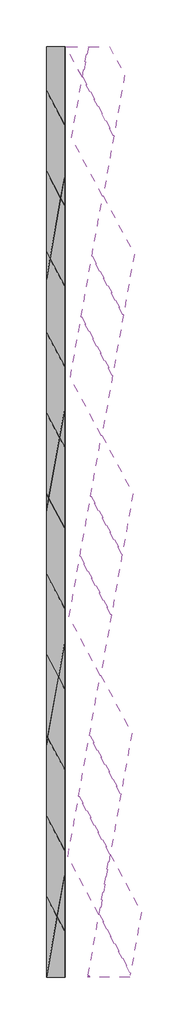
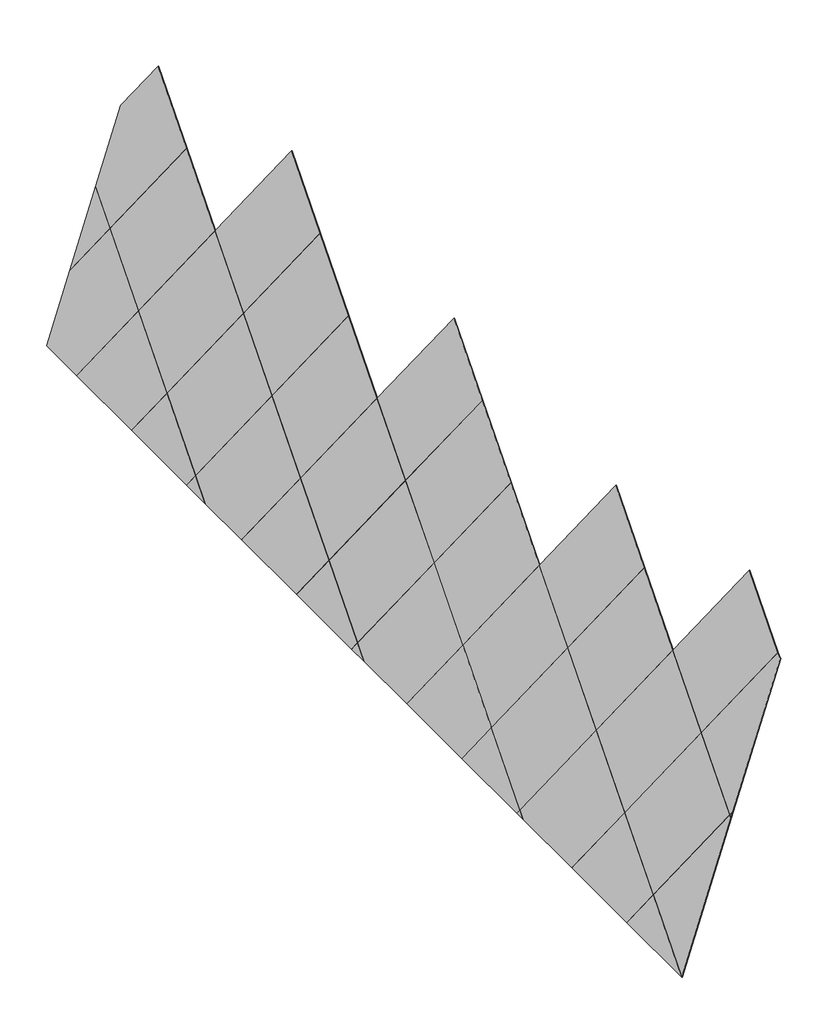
# One storey, incomplete: 38 plates.
"""IFC4 building model written with IfcOpenShell, lengths in millimetres."""

from ifc_helpers import new_model, si_unit, origin, place, context, project, spatial, transform, mapped, element, save
from components import plate_969d1667, plate_5158de34, plate_a97b291f, plate_aaef0fc8, plate_8d21edd0, plate_37a8cfe6, plate_2800b3d3, plate_b21344c3, plate_3c9e1d5a, plate_f3c4d13c, plate_d7e51805, plate_6007e982, plate_9a3058fc, plate_2b75f933, plate_3b3882b3, plate_4ca05de4, plate_2f3c461f, plate_bcce99e1, plate_46e54e51, plate_83047ba3, plate_29658407

model = new_model("IFC4")

# Units and contexts
model_context = context("Model", 3, world=origin())
ifc_project = project(units=[si_unit("LENGTHUNIT", "METRE", prefix="MILLI")], contexts=[model_context])

# Site, building, storey
site = spatial("IfcSite", under=ifc_project)
building = spatial("IfcBuilding", under=site)
storey = spatial("IfcBuildingStorey", under=building, Name="樓層 1", Elevation=0.0)

# Plates
placement = place(None, origin())
plate_shape = plate_969d1667(model_context)
element("IfcPlate", 1, ObjectType="系統嵌板 : 玻璃 1.0cm", at=placement, inside=storey, context=model_context, shape_type="MappedRepresentation", body=[
    mapped(plate_shape, transform((-11647.1109221, 5766.0427082, 2658.0821609), x_axis=(0.15450849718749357, 0.8660254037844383, 0.47552825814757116), y_axis=(0.9510565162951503, 0.0, -0.30901699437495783), z_axis=(-0.267616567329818, 0.5000000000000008, -0.8236391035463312))),
])
element("IfcPlate", 2, ObjectType="系統嵌板 : 玻璃 1.0cm", at=placement, inside=storey, context=model_context, shape_type="MappedRepresentation", body=[
    mapped(plate_shape, transform((-11415.3481763, 7065.0808139, 3371.3745481), x_axis=(0.15450849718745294, 0.8660254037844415, 0.4755282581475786), y_axis=(0.9510565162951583, 0.0, -0.3090169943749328), z_axis=(-0.2676165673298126, 0.4999999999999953, -0.8236391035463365))),
])
element("IfcPlate", 3, ObjectType="系統嵌板 : 玻璃 1.0cm", at=placement, inside=storey, context=model_context, shape_type="MappedRepresentation", body=[
    mapped(plate_shape, transform((-11183.5854305, 8364.1189196, 4084.6669353), x_axis=(0.15450849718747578, 0.86602540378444, 0.47552825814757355), y_axis=(0.951056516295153, 0.0, -0.3090169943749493), z_axis=(-0.2676165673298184, 0.49999999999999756, -0.8236391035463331))),
])
element("IfcPlate", 4, ObjectType="系統嵌板 : 玻璃 1.0cm", at=placement, inside=storey, context=model_context, shape_type="MappedRepresentation", body=[
    mapped(plate_shape, transform((-11673.3577411, 618.9283912, 2577.3027581), x_axis=(0.1545084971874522, 0.8660254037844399, 0.47552825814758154), y_axis=(0.951056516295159, 0.0, -0.3090169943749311), z_axis=(-0.267616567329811, 0.49999999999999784, -0.8236391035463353))),
])
element("IfcPlate", 5, ObjectType="系統嵌板 : 玻璃 1.0cm", at=placement, inside=storey, context=model_context, shape_type="MappedRepresentation", body=[
    mapped(plate_shape, transform((-11441.5949953, 1917.9664969, 3290.5951453), x_axis=(0.1545084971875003, 0.8660254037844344, 0.475528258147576), y_axis=(0.9510565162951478, 0.0, -0.30901699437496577), z_axis=(-0.26761656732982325, 0.5000000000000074, -0.8236391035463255))),
])
element("IfcPlate", 6, ObjectType="系統嵌板 : 玻璃 1.0cm", at=placement, inside=storey, context=model_context, shape_type="MappedRepresentation", body=[
    mapped(plate_shape, transform((-11209.8322495, 3217.0046025, 4003.8875325), x_axis=(0.15450849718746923, 0.8660254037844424, 0.47552825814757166), y_axis=(0.9510565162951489, 0.0, -0.3090169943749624), z_axis=(-0.2676165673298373, 0.4999999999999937, -0.8236391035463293))),
])
element("IfcPlate", 7, ObjectType="系統嵌板 : 玻璃 1.0cm", at=placement, inside=storey, context=model_context, shape_type="MappedRepresentation", body=[
    mapped(plate_shape, transform((-10978.0695038, 4516.0427082, 4717.1799197), x_axis=(0.15450849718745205, 0.8660254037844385, 0.4755282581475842), y_axis=(0.951056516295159, 0.0, -0.3090169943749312), z_axis=(-0.2676165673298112, 0.5000000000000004, -0.8236391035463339))),
])
element("IfcPlate", 8, ObjectType="系統嵌板 : 玻璃 1.0cm", at=placement, inside=storey, context=model_context, shape_type="MappedRepresentation", body=[
    mapped(plate_shape, transform((-10746.306758, 5815.0808139, 5430.472307), x_axis=(0.15450849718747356, 0.8660254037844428, 0.4755282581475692), y_axis=(0.9510565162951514, 0.0, -0.30901699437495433), z_axis=(-0.26761656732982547, 0.4999999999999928, -0.8236391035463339))),
])
element("IfcPlate", 9, ObjectType="系統嵌板 : 玻璃 1.0cm", at=placement, inside=storey, context=model_context, shape_type="MappedRepresentation", body=[
    mapped(plate_shape, transform((-11699.6045601, -4528.1859258, 2496.5233553), x_axis=(0.1545084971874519, 0.8660254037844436, 0.475528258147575), y_axis=(0.9510565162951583, 0.0, -0.30901699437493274), z_axis=(-0.2676165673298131, 0.49999999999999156, -0.8236391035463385))),
])
element("IfcPlate", 10, ObjectType="系統嵌板 : 玻璃 1.0cm", at=placement, inside=storey, context=model_context, shape_type="MappedRepresentation", body=[
    mapped(plate_shape, transform((-11467.8418143, -3229.1478202, 3209.8157425), x_axis=(0.15450849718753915, 0.866025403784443, 0.47552825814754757), y_axis=(0.9510565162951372, 0.0, -0.30901699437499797), z_axis=(-0.267616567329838, 0.49999999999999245, -0.82363910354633))),
])
element("IfcPlate", 11, ObjectType="系統嵌板 : 玻璃 1.0cm", at=placement, inside=storey, context=model_context, shape_type="MappedRepresentation", body=[
    mapped(plate_shape, transform((-11236.0790686, -1930.1097145, 3923.1081297), x_axis=(0.1545084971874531, 0.8660254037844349, 0.47552825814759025), y_axis=(0.951056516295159, 0.0, -0.30901699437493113), z_axis=(-0.26761656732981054, 0.5000000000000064, -0.8236391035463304))),
])
element("IfcPlate", 12, ObjectType="系統嵌板 : 玻璃 1.0cm", at=placement, inside=storey, context=model_context, shape_type="MappedRepresentation", body=[
    mapped(plate_shape, transform((-11004.3163228, -631.0716088, 4636.4005169), x_axis=(0.15450849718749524, 0.8660254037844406, 0.4755282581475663), y_axis=(0.9510565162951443, 0.0, -0.30901699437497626), z_axis=(-0.2676165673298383, 0.49999999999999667, -0.8236391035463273))),
])
element("IfcPlate", 13, ObjectType="系統嵌板 : 玻璃 1.0cm", at=placement, inside=storey, context=model_context, shape_type="MappedRepresentation", body=[
    mapped(plate_shape, transform((-10772.553577, 667.9664969, 5349.6929042), x_axis=(0.15450849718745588, 0.8660254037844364, 0.4755282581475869), y_axis=(0.9510565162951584, 0.0, -0.3090169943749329), z_axis=(-0.26761656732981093, 0.5000000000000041, -0.8236391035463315))),
])
element("IfcPlate", 14, ObjectType="系統嵌板 : 玻璃 1.0cm", at=placement, inside=storey, context=model_context, shape_type="MappedRepresentation", body=[
    mapped(plate_shape, transform((-11494.0886334, -8376.2621372, 3129.0363397), x_axis=(0.1545084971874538, 0.8660254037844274, 0.475528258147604), y_axis=(0.9510565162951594, 0.0, -0.3090169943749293), z_axis=(-0.26761656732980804, 0.5000000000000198, -0.8236391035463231))),
])
element("IfcPlate", 15, ObjectType="系統嵌板 : 玻璃 1.0cm", at=placement, inside=storey, context=model_context, shape_type="MappedRepresentation", body=[
    mapped(plate_shape, transform((-11262.3258876, -7077.2240315, 3842.3287269), x_axis=(0.15450849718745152, 0.8660254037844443, 0.4755282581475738), y_axis=(0.9510565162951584, 0.0, -0.30901699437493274), z_axis=(-0.2676165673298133, 0.4999999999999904, -0.8236391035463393))),
])
element("IfcPlate", 16, ObjectType="系統嵌板 : 玻璃 1.0cm", at=placement, inside=storey, context=model_context, shape_type="MappedRepresentation", body=[
    mapped(plate_shape, transform((-11030.5631418, -5778.1859258, 4555.6211141), x_axis=(0.15450849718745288, 0.8660254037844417, 0.47552825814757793), y_axis=(0.9510565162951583, 0.0, -0.3090169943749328), z_axis=(-0.26761656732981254, 0.49999999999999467, -0.8236391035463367))),
])
element("IfcPlate", 17, ObjectType="系統嵌板 : 玻璃 1.0cm", at=placement, inside=storey, context=model_context, shape_type="MappedRepresentation", body=[
    mapped(plate_shape, transform((-10798.800396, -4479.1478202, 5268.9135014), x_axis=(0.1545084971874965, 0.8660254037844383, 0.4755282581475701), y_axis=(0.9510565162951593, 0.0, -0.30901699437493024), z_axis=(-0.26761656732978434, 0.5000000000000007, -0.8236391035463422))),
])
element("IfcPlate", 18, ObjectType="系統嵌板 : 玻璃 1.0cm", at=placement, inside=storey, context=model_context, shape_type="MappedRepresentation", body=[
    mapped(plate_shape, transform((-10593.2844693, -8327.2240315, 5901.4264858), x_axis=(0.15450849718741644, 0.8660254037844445, 0.4755282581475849), y_axis=(0.951056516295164, 0.0, -0.30901699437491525), z_axis=(-0.26761656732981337, 0.49999999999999, -0.8236391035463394))),
])
plate_2_shape = plate_5158de34(model_context)
element("IfcPlate", 19, ObjectType="系統嵌板 : 玻璃 1.0cm", at=placement, inside=storey, context=model_context, shape_type="MappedRepresentation", body=[
    mapped(plate_2_shape, transform((-12471.4039418, 6145.8521798, 121.1691042), x_axis=(0.1545084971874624, 0.8660254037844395, 0.475528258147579), y_axis=(0.9510565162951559, 0.0, -0.30901699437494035), z_axis=(-0.2676165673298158, 0.49999999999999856, -0.8236391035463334))),
])
plate_3_shape = plate_a97b291f(model_context)
element("IfcPlate", 20, ObjectType="系統嵌板 : 玻璃 1.0cm", at=placement, inside=storey, context=model_context, shape_type="MappedRepresentation", body=[
    mapped(plate_3_shape, transform((-12316.1523404, 7016.0427082, 598.984402), x_axis=(0.1545084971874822, 0.8660254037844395, 0.4755282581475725), y_axis=(0.9510565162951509, 0.0, -0.3090169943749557), z_axis=(-0.26761656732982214, 0.4999999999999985, -0.8236391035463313))),
])
plate_4_shape = plate_aaef0fc8(model_context)
element("IfcPlate", 21, ObjectType="系統嵌板 : 玻璃 1.0cm", at=placement, inside=storey, context=model_context, shape_type="MappedRepresentation", body=[
    mapped(plate_4_shape, transform((-12084.3895946, 8315.0808139, 1312.2767892), x_axis=(0.1545084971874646, 0.8660254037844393, 0.4755282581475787), y_axis=(0.951056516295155, 0.0, -0.30901699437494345), z_axis=(-0.26761656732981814, 0.49999999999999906, -0.8236391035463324))),
])
plate_5_shape = plate_8d21edd0(model_context)
element("IfcPlate", 22, ObjectType="系統嵌板 : 玻璃 1.0cm", at=placement, inside=storey, context=model_context, shape_type="MappedRepresentation", body=[
    mapped(plate_5_shape, transform((-11852.6268488, 9614.1189196, 2025.5691764), x_axis=(0.15450849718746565, 0.8660254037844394, 0.47552825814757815), y_axis=(0.9510565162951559, 0.0, -0.3090169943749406), z_axis=(-0.26761656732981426, 0.49999999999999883, -0.8236391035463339))),
])
plate_6_shape = plate_37a8cfe6(model_context)
element("IfcPlate", 23, ObjectType="系統嵌板 : 玻璃 1.0cm", at=placement, inside=storey, context=model_context, shape_type="MappedRepresentation", body=[
    mapped(plate_6_shape, transform((-11677.7322109, 10594.4093383, 2563.8395243), x_axis=(0.15450849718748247, 0.8660254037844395, 0.4755282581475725), y_axis=(0.951056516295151, 0.0, -0.3090169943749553), z_axis=(-0.2676165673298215, 0.4999999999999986, -0.8236391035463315))),
])
plate_7_shape = plate_2800b3d3(model_context)
element("IfcPlate", 24, ObjectType="系統嵌板 : 玻璃 1.0cm", at=placement, inside=storey, context=model_context, shape_type="MappedRepresentation", body=[
    mapped(plate_7_shape, transform((-12484.5273513, 1072.2950213, 80.7794028), x_axis=(0.15450849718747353, 0.866025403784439, 0.4755282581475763), y_axis=(0.9510565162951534, 0.0, -0.3090169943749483), z_axis=(-0.26761656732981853, 0.49999999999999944, -0.8236391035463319))),
])
plate_8_shape = plate_b21344c3(model_context)
element("IfcPlate", 25, ObjectType="系統嵌板 : 玻璃 1.0cm", at=placement, inside=storey, context=model_context, shape_type="MappedRepresentation", body=[
    mapped(plate_8_shape, transform((-12342.3991594, 1868.9283912, 518.2049992), x_axis=(0.15450849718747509, 0.8660254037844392, 0.4755282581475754), y_axis=(0.9510565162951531, 0.0, -0.3090169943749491), z_axis=(-0.2676165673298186, 0.4999999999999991, -0.8236391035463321))),
])
plate_9_shape = plate_3c9e1d5a(model_context)
element("IfcPlate", 26, ObjectType="系統嵌板 : 玻璃 1.0cm", at=placement, inside=storey, context=model_context, shape_type="MappedRepresentation", body=[
    mapped(plate_9_shape, transform((-12110.6364136, 3167.9664969, 1231.4973864), x_axis=(0.154508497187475, 0.8660254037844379, 0.4755282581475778), y_axis=(0.9510565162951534, 0.0, -0.3090169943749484), z_axis=(-0.2676165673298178, 0.5000000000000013, -0.823639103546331))),
])
plate_10_shape = plate_f3c4d13c(model_context)
element("IfcPlate", 27, ObjectType="系統嵌板 : 玻璃 1.0cm", at=placement, inside=storey, context=model_context, shape_type="MappedRepresentation", body=[
    mapped(plate_10_shape, transform((-11878.8736679, 4467.0046025, 1944.7897736), x_axis=(0.15450849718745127, 0.8660254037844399, 0.4755282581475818), y_axis=(0.9510565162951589, 0.0, -0.30901699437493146), z_axis=(-0.267616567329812, 0.4999999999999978, -0.823639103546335))),
])
plate_11_shape = plate_d7e51805(model_context)
element("IfcPlate", 28, ObjectType="系統嵌板 : 玻璃 1.0cm", at=placement, inside=storey, context=model_context, shape_type="MappedRepresentation", body=[
    mapped(plate_11_shape, transform((-10951.8226847, 9663.1570252, 4797.9593225), x_axis=(0.15450849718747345, 0.8660254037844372, 0.4755282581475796), y_axis=(0.9510565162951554, 0.0, -0.3090169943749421), z_axis=(-0.26761656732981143, 0.5000000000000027, -0.8236391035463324))),
])
plate_12_shape = plate_6007e982(model_context)
element("IfcPlate", 29, ObjectType="系統嵌板 : 玻璃 1.0cm", at=placement, inside=storey, context=model_context, shape_type="MappedRepresentation", body=[
    mapped(plate_12_shape, transform((-12497.6507608, -4001.2621372, 40.3897014), x_axis=(0.1545084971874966, 0.8660254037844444, 0.475528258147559), y_axis=(0.9510565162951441, 0.0, -0.30901699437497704), z_axis=(-0.26761656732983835, 0.4999999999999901, -0.8236391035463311))),
])
plate_13_shape = plate_9a3058fc(model_context)
element("IfcPlate", 30, ObjectType="系統嵌板 : 玻璃 1.0cm", at=placement, inside=storey, context=model_context, shape_type="MappedRepresentation", body=[
    mapped(plate_13_shape, transform((-12368.6459784, -3278.1859258, 437.4255964), x_axis=(0.15450849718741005, 0.8660254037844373, 0.4755282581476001), y_axis=(0.9510565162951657, 0.0, -0.3090169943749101), z_axis=(-0.2676165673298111, 0.5000000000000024, -0.8236391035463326))),
])
plate_14_shape = plate_2b75f933(model_context)
element("IfcPlate", 31, ObjectType="系統嵌板 : 玻璃 1.0cm", at=placement, inside=storey, context=model_context, shape_type="MappedRepresentation", body=[
    mapped(plate_14_shape, transform((-12136.8832327, -1979.1478202, 1150.7179836), x_axis=(0.154508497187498, 0.8660254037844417, 0.4755282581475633), y_axis=(0.9510565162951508, 0.0, -0.3090169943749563), z_axis=(-0.26761656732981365, 0.49999999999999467, -0.8236391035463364))),
])
plate_15_shape = plate_3b3882b3(model_context)
element("IfcPlate", 32, ObjectType="系統嵌板 : 玻璃 1.0cm", at=placement, inside=storey, context=model_context, shape_type="MappedRepresentation", body=[
    mapped(plate_15_shape, transform((-11905.1204869, -680.1097145, 1864.0103709), x_axis=(0.15450849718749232, 0.8660254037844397, 0.4755282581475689), y_axis=(0.9510565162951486, 0.0, -0.30901699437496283), z_axis=(-0.26761656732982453, 0.4999999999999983, -0.8236391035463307))),
])
plate_16_shape = plate_4ca05de4(model_context)
element("IfcPlate", 33, ObjectType="系統嵌板 : 玻璃 1.0cm", at=placement, inside=storey, context=model_context, shape_type="MappedRepresentation", body=[
    mapped(plate_16_shape, transform((-12394.8927975, -8425.3002429, 356.6461936), x_axis=(0.154508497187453, 0.8660254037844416, 0.47552825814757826), y_axis=(0.9510565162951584, 0.0, -0.3090169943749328), z_axis=(-0.2676165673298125, 0.49999999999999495, -0.8236391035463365))),
])
plate_17_shape = plate_2f3c461f(model_context)
element("IfcPlate", 34, ObjectType="系統嵌板 : 玻璃 1.0cm", at=placement, inside=storey, context=model_context, shape_type="MappedRepresentation", body=[
    mapped(plate_17_shape, transform((-12163.1300517, -7126.2621372, 1069.9385808), x_axis=(0.154508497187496, 0.8660254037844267, 0.4755282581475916), y_axis=(0.9510565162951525, 0.0, -0.3090169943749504), z_axis=(-0.26761656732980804, 0.500000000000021, -0.8236391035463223))),
])
plate_18_shape = plate_bcce99e1(model_context)
element("IfcPlate", 35, ObjectType="系統嵌板 : 玻璃 1.0cm", at=placement, inside=storey, context=model_context, shape_type="MappedRepresentation", body=[
    mapped(plate_18_shape, transform((-11931.3673059, -5827.2240315, 1783.2309681), x_axis=(0.15450849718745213, 0.8660254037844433, 0.47552825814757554), y_axis=(0.951056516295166, 0.0, -0.3090169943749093), z_axis=(-0.26761656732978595, 0.4999999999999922, -0.8236391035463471))),
])
plate_19_shape = plate_46e54e51(model_context)
element("IfcPlate", 36, ObjectType="系統嵌板 : 玻璃 1.0cm", at=placement, inside=storey, context=model_context, shape_type="MappedRepresentation", body=[
    mapped(plate_19_shape, transform((-11725.8513791, -9675.3002429, 2415.7439525), x_axis=(0.15450849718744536, 0.866025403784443, 0.4755282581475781), y_axis=(0.9510565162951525, 0.0, -0.3090169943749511), z_axis=(-0.267616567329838, 0.49999999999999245, -0.8236391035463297))),
])
plate_20_shape = plate_83047ba3(model_context)
element("IfcPlate", 37, ObjectType="系統嵌板 : 玻璃 1.0cm", at=placement, inside=storey, context=model_context, shape_type="MappedRepresentation", body=[
    mapped(plate_20_shape, transform((-11588.0976571, -9099.3383486, 2839.7063151), x_axis=(0.15450849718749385, 0.8660254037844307, 0.4755282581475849), y_axis=(0.9510565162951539, 0.0, -0.30901699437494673), z_axis=(-0.26761656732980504, 0.500000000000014, -0.8236391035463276))),
])
plate_21_shape = plate_29658407(model_context)
element("IfcPlate", 38, ObjectType="系統嵌板 : 玻璃 1.0cm", at=placement, inside=storey, context=model_context, shape_type="MappedRepresentation", body=[
    mapped(plate_21_shape, transform((-10825.047215, -9626.2621372, 5188.1340986), x_axis=(0.1545084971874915, 0.8660254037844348, 0.47552825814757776), y_axis=(0.9510565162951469, 0.0, -0.3090169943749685), z_axis=(-0.26761656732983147, 0.5000000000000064, -0.8236391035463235))),
])

save(model, "model.ifc")
